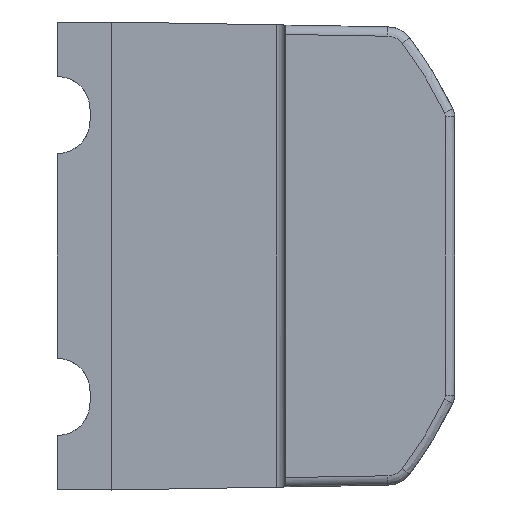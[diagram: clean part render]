
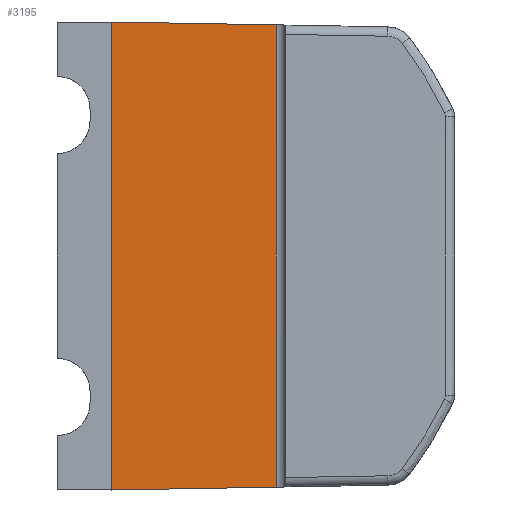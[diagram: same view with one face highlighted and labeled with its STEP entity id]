
A CAD part, front view. The second image highlights one B-rep face of the part: STEP entity #3195.
In plain terms, the highlighted planar face has unit normal (-0.009, -1, 0).
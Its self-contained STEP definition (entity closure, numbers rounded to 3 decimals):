
#326 = ORIENTED_EDGE ( 'NONE', *, *, #1487, .F. ) ;
#335 = DIRECTION ( 'NONE',  ( 1., -0.009, 0. ) ) ;
#392 = CARTESIAN_POINT ( 'NONE',  ( 13.654, 0.004, 12.297 ) ) ;
#459 = LINE ( 'NONE', #1799, #3035 ) ;
#479 = CARTESIAN_POINT ( 'NONE',  ( 13.654, 0.004, 0. ) ) ;
#1142 = EDGE_LOOP ( 'NONE', ( #326, #3423, #2811, #3416 ) ) ;
#1158 = CARTESIAN_POINT ( 'NONE',  ( 4.9, 0.081, 12.449 ) ) ;
#1175 = VERTEX_POINT ( 'NONE', #2018 ) ;
#1187 = DIRECTION ( 'NONE',  ( 1., -0.009, 0.017 ) ) ;
#1487 = EDGE_CURVE ( 'NONE', #5360, #3838, #4345, .T. ) ;
#1591 = EDGE_CURVE ( 'NONE', #1175, #1912, #4791, .T. ) ;
#1641 = CARTESIAN_POINT ( 'NONE',  ( 1.912, 0.107, -12.502 ) ) ;
#1715 = DIRECTION ( 'NONE',  ( 0., 0., 1. ) ) ;
#1724 = AXIS2_PLACEMENT_3D ( 'NONE', #2551, #5214, #335 ) ;
#1799 = CARTESIAN_POINT ( 'NONE',  ( 1.912, 0.107, 12.502 ) ) ;
#1912 = VERTEX_POINT ( 'NONE', #392 ) ;
#2018 = CARTESIAN_POINT ( 'NONE',  ( 13.654, 0.004, -12.297 ) ) ;
#2059 = CARTESIAN_POINT ( 'NONE',  ( 4.9, 0.081, -12.449 ) ) ;
#2188 = DIRECTION ( 'NONE',  ( 0., 0., 1. ) ) ;
#2219 = VECTOR ( 'NONE', #1187, 1000. ) ;
#2441 = EDGE_CURVE ( 'NONE', #5360, #1175, #3038, .T. ) ;
#2551 = CARTESIAN_POINT ( 'NONE',  ( 14.15, 0., 12.5 ) ) ;
#2811 = ORIENTED_EDGE ( 'NONE', *, *, #1591, .T. ) ;
#2917 = EDGE_CURVE ( 'NONE', #3838, #1912, #459, .T. ) ;
#3035 = VECTOR ( 'NONE', #4344, 1000. ) ;
#3038 = LINE ( 'NONE', #1641, #2219 ) ;
#3195 = ADVANCED_FACE ( 'NONE', ( #4724 ), #3432, .T. ) ;
#3416 = ORIENTED_EDGE ( 'NONE', *, *, #2917, .F. ) ;
#3423 = ORIENTED_EDGE ( 'NONE', *, *, #2441, .T. ) ;
#3432 = PLANE ( 'NONE',  #1724 ) ;
#3838 = VERTEX_POINT ( 'NONE', #1158 ) ;
#3962 = CARTESIAN_POINT ( 'NONE',  ( 4.9, 0.081, 12.5 ) ) ;
#4277 = VECTOR ( 'NONE', #1715, 1000. ) ;
#4344 = DIRECTION ( 'NONE',  ( 1., -0.009, -0.017 ) ) ;
#4345 = LINE ( 'NONE', #3962, #4277 ) ;
#4724 = FACE_OUTER_BOUND ( 'NONE', #1142, .T. ) ;
#4791 = LINE ( 'NONE', #479, #5284 ) ;
#5214 = DIRECTION ( 'NONE',  ( -0.009, -1., 0. ) ) ;
#5284 = VECTOR ( 'NONE', #2188, 1000. ) ;
#5360 = VERTEX_POINT ( 'NONE', #2059 ) ;
